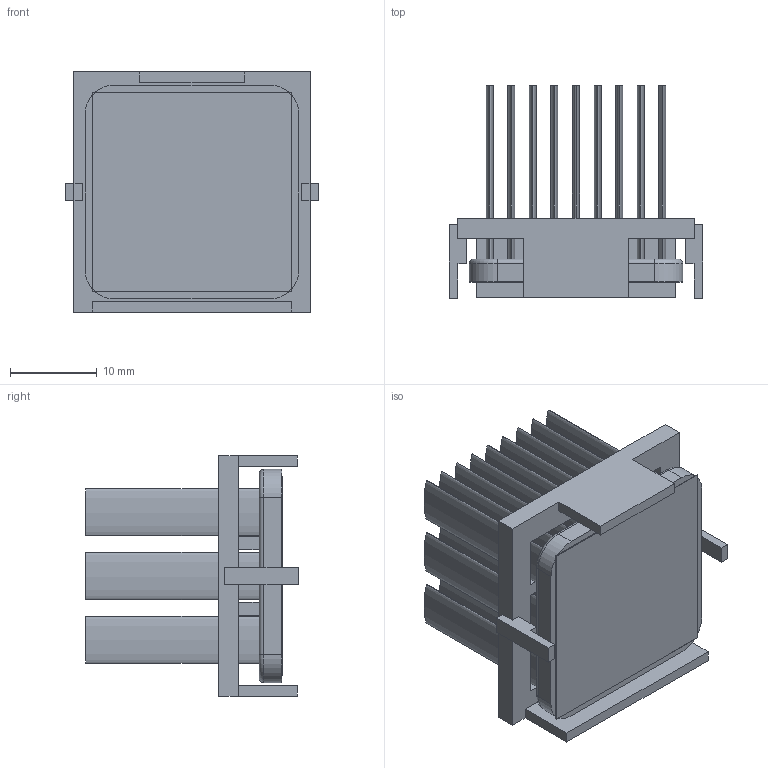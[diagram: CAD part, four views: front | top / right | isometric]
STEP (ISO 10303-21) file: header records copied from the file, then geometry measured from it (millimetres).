
FILE_DESCRIPTION (( 'STEP AP214' ), '1' );
FILE_NAME ('INM25001-23W_2.6 +BU.STEP', '2023-02-17T17:32:31', ( '' ), ( '' ), 'SwSTEP 2.0', 'SolidWorks 2020', '' );
FILE_SCHEMA (( 'AUTOMOTIVE_DESIGN' ));
Length unit declared in the file: inch
Products named in the file (1): INM25001-23W_2.6 +BU
Bounding box: 29.2 x 24.5 x 27.7 mm (x, y, z)
Volume: 4616.5 mm3; surface area: 10452.9 mm2
Topology: 3 solids, 3 shells, 163 faces, 382 edges, 252 vertices
Faces by surface type: plane 97, bspline 54, cylinder 8, torus 4
Entity records: 6919 total; most frequent: CARTESIAN_POINT 1500, ORIENTED_EDGE 764, DIRECTION 514, EDGE_CURVE 382, LINE 254, VECTOR 254, VERTEX_POINT 252, EDGE_LOOP 192
